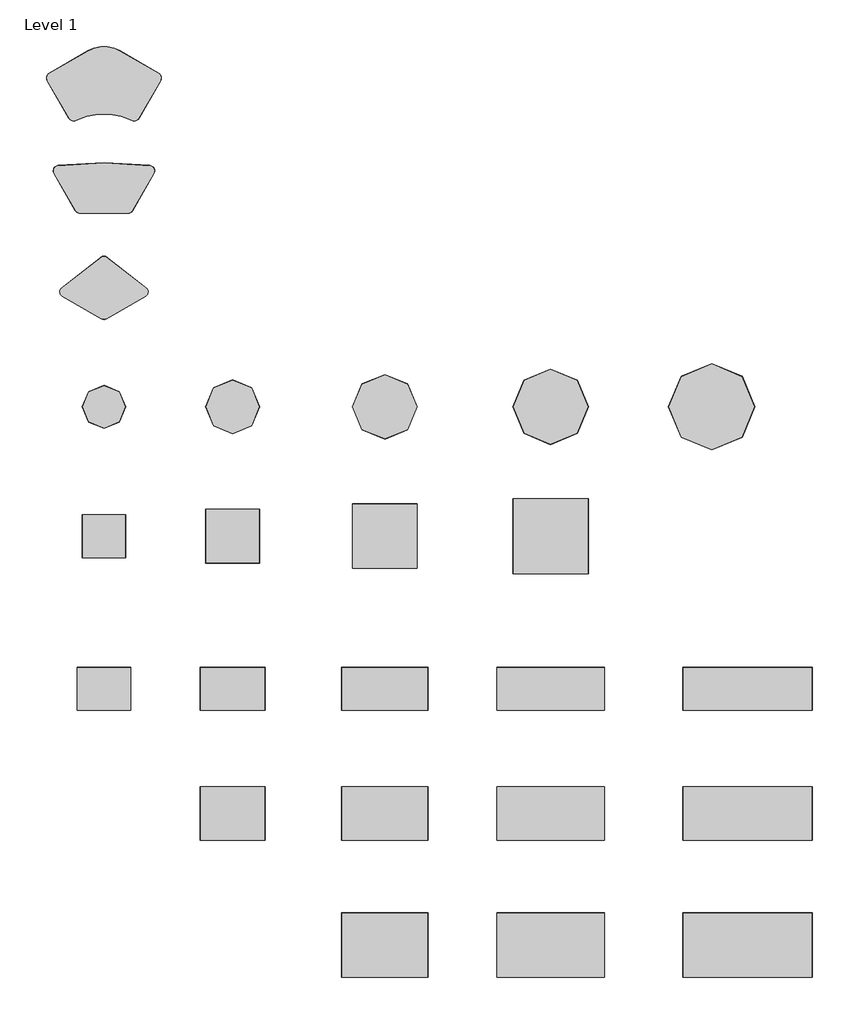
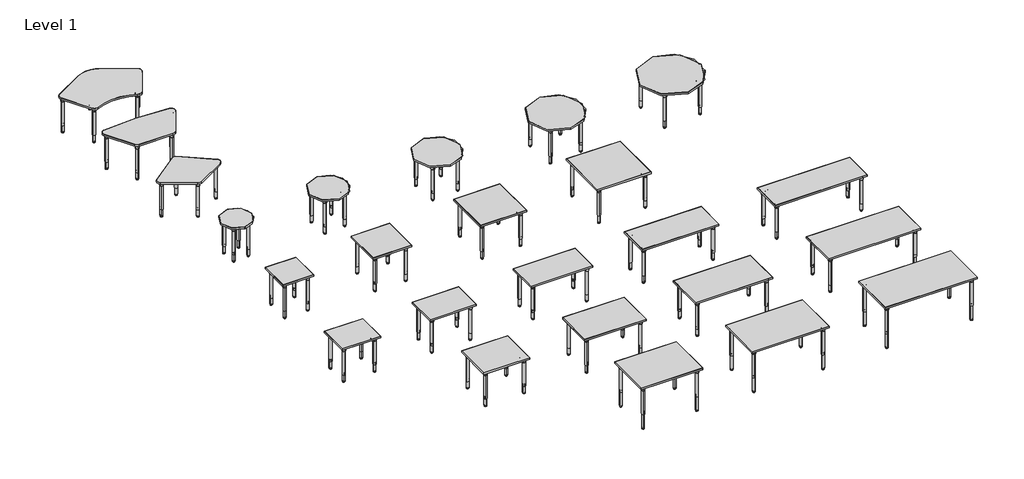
# One storey: 24 furniture elements.
"""IFC4 building model written with IfcOpenShell, lengths in millimetres."""

from ifc_helpers import new_model, si_unit, origin, place, context, project, spatial, transform, mapped, element, save
from components import furniture_91c81256, furniture_8084dfe0, furniture_8ffb9708, mgl2430_6a437351, mgl2436_2387e3a6, mgl2448_73f5a753, mgl2460_92f67adb, mgl2472_9e382c9f, mgl24d_21a6063f, mgl24s_ef257404, mgl3036_8a9be515, mgl3048_d8aeffa5, mgl3060_ef460943, mgl3072_897ac57b, mgl30d_0bfcbd0f, mgl30s_412d6b17, mgl3648_3a165951, mgl3660_9fdf70c8, mgl3672_5fbb54ad, mgl36d_3e933a5c, mgl36s_a372faff, mgl42d_aba82845, mgl42s_2c5b5d76, mgl48d_62a0719f

model = new_model("IFC4")

# Units and contexts
model_context = context("Model", 3, world=origin())
ifc_project = project(units=[si_unit("LENGTHUNIT", "METRE", prefix="MILLI")], contexts=[model_context])

# Site, building, storey
site = spatial("IfcSite", under=ifc_project)
building = spatial("IfcBuilding", under=site)
storey = spatial("IfcBuildingStorey", under=building, Name="Level 1", Elevation=0.0)

# Furniture
placement = place(None, origin())
furniture_shape = furniture_91c81256(model_context)
element("IfcFurniture", 1, ObjectType="ERG-Mingle-Table-Boomerang : MGLBMR", at=placement, inside=storey, context=model_context, shape_type="MappedRepresentation", body=[
    mapped(furniture_shape, transform((-9593.1202301, 12200.2574636, 0.0), x_axis=(1.0, 0.0, 0.0), y_axis=(0.0, 1.0, 0.0), z_axis=(0.0, 0.0, 1.0))),
])
furniture_2_shape = furniture_8084dfe0(model_context)
element("IfcFurniture", 2, ObjectType="ERG-Mingle-Table-Bowed_Trapezoid : MGLTZD", at=placement, inside=storey, context=model_context, shape_type="MappedRepresentation", body=[
    mapped(furniture_2_shape, transform((-9593.1202301, 10613.4429868, 0.0), x_axis=(1.0, 0.0, 0.0), y_axis=(0.0, 1.0, 0.0), z_axis=(0.0, 0.0, 1.0))),
])
furniture_3_shape = furniture_8ffb9708(model_context)
element("IfcFurniture", 3, ObjectType="ERG-Mingle-Table-Tear_Droop : MGLTPD", at=placement, inside=storey, context=model_context, shape_type="MappedRepresentation", body=[
    mapped(furniture_3_shape, transform((-9593.1202301, 9164.7381266, 0.0), x_axis=(1.0, 0.0, 0.0), y_axis=(0.0, 1.0, 0.0), z_axis=(0.0, 0.0, 1.0))),
])
mgl2430_shape = mgl2430_6a437351(model_context)
element("IfcFurniture", 4, ObjectType="ERG-Mingle-Table-Rectangle : MGL2430", at=placement, inside=storey, context=model_context, shape_type="MappedRepresentation", body=[
    mapped(mgl2430_shape, transform((-9593.1202301, 3542.6049394, 0.0), x_axis=(1.0, 0.0, 0.0), y_axis=(0.0, 1.0, 0.0), z_axis=(0.0, 0.0, 1.0))),
])
mgl2436_shape = mgl2436_2387e3a6(model_context)
element("IfcFurniture", 5, ObjectType="ERG-Mingle-Table-Rectangle : MGL2436", at=placement, inside=storey, context=model_context, shape_type="MappedRepresentation", body=[
    mapped(mgl2436_shape, transform((-7771.421414, 3542.6049394, 0.0), x_axis=(1.0, 0.0, 0.0), y_axis=(0.0, 1.0, 0.0), z_axis=(0.0, 0.0, 1.0))),
])
mgl2448_shape = mgl2448_73f5a753(model_context)
element("IfcFurniture", 6, ObjectType="ERG-Mingle-Table-Rectangle : MGL2448", at=placement, inside=storey, context=model_context, shape_type="MappedRepresentation", body=[
    mapped(mgl2448_shape, transform((-5615.7345697, 3542.6049394, 0.0), x_axis=(1.0, 0.0, 0.0), y_axis=(0.0, 1.0, 0.0), z_axis=(0.0, 0.0, 1.0))),
])
mgl2460_shape = mgl2460_92f67adb(model_context)
element("IfcFurniture", 7, ObjectType="ERG-Mingle-Table-Rectangle : MGL2460", at=placement, inside=storey, context=model_context, shape_type="MappedRepresentation", body=[
    mapped(mgl2460_shape, transform((-3266.9327248, 3542.6049394, 0.0), x_axis=(1.0, 0.0, 0.0), y_axis=(0.0, 1.0, 0.0), z_axis=(0.0, 0.0, 1.0))),
])
mgl2472_shape = mgl2472_9e382c9f(model_context)
element("IfcFurniture", 8, ObjectType="ERG-Mingle-Table-Rectangle : MGL2472", at=placement, inside=storey, context=model_context, shape_type="MappedRepresentation", body=[
    mapped(mgl2472_shape, transform((-479.1772159, 3542.6049394, 0.0), x_axis=(1.0, 0.0, 0.0), y_axis=(0.0, 1.0, 0.0), z_axis=(0.0, 0.0, 1.0))),
])
mgl24d_shape = mgl24d_21a6063f(model_context)
element("IfcFurniture", 9, ObjectType="ERG-Mingle-Table-Round : MGL24D", at=placement, inside=storey, context=model_context, shape_type="MappedRepresentation", body=[
    mapped(mgl24d_shape, transform((-9593.1202301, 7534.2733312, 0.0), x_axis=(1.0, 0.0, 0.0), y_axis=(0.0, 1.0, 0.0), z_axis=(0.0, 0.0, 1.0))),
])
mgl24s_shape = mgl24s_ef257404(model_context)
element("IfcFurniture", 10, ObjectType="ERG-Mingle-Table-Square : MGL24S", at=placement, inside=storey, context=model_context, shape_type="MappedRepresentation", body=[
    mapped(mgl24s_shape, transform((-9593.1202301, 5703.2243932, 0.0), x_axis=(1.0, 0.0, 0.0), y_axis=(0.0, 1.0, 0.0), z_axis=(0.0, 0.0, 1.0))),
])
mgl3036_shape = mgl3036_8a9be515(model_context)
element("IfcFurniture", 11, ObjectType="ERG-Mingle-Table-Rectangle : MGL3036", at=placement, inside=storey, context=model_context, shape_type="MappedRepresentation", body=[
    mapped(mgl3036_shape, transform((-7771.421414, 1778.4294221, 0.0), x_axis=(1.0, 0.0, 0.0), y_axis=(0.0, 1.0, 0.0), z_axis=(0.0, 0.0, 1.0))),
])
mgl3048_shape = mgl3048_d8aeffa5(model_context)
element("IfcFurniture", 12, ObjectType="ERG-Mingle-Table-Rectangle : MGL3048", at=placement, inside=storey, context=model_context, shape_type="MappedRepresentation", body=[
    mapped(mgl3048_shape, transform((-5615.7345697, 1778.4294221, 0.0), x_axis=(1.0, 0.0, 0.0), y_axis=(0.0, 1.0, 0.0), z_axis=(0.0, 0.0, 1.0))),
])
mgl3060_shape = mgl3060_ef460943(model_context)
element("IfcFurniture", 13, ObjectType="ERG-Mingle-Table-Rectangle : MGL3060", at=placement, inside=storey, context=model_context, shape_type="MappedRepresentation", body=[
    mapped(mgl3060_shape, transform((-3266.9327248, 1778.4294221, 0.0), x_axis=(1.0, 0.0, 0.0), y_axis=(0.0, 1.0, 0.0), z_axis=(0.0, 0.0, 1.0))),
])
mgl3072_shape = mgl3072_897ac57b(model_context)
element("IfcFurniture", 14, ObjectType="ERG-Mingle-Table-Rectangle : MGL3072", at=placement, inside=storey, context=model_context, shape_type="MappedRepresentation", body=[
    mapped(mgl3072_shape, transform((-479.1772159, 1778.4294221, 0.0), x_axis=(1.0, 0.0, 0.0), y_axis=(0.0, 1.0, 0.0), z_axis=(0.0, 0.0, 1.0))),
])
mgl30d_shape = mgl30d_0bfcbd0f(model_context)
element("IfcFurniture", 15, ObjectType="ERG-Mingle-Table-Round : MGL30D", at=placement, inside=storey, context=model_context, shape_type="MappedRepresentation", body=[
    mapped(mgl30d_shape, transform((-7771.421414, 7534.2733312, 0.0), x_axis=(1.0, 0.0, 0.0), y_axis=(0.0, 1.0, 0.0), z_axis=(0.0, 0.0, 1.0))),
])
mgl30s_shape = mgl30s_412d6b17(model_context)
element("IfcFurniture", 16, ObjectType="ERG-Mingle-Table-Square : MGL30S", at=placement, inside=storey, context=model_context, shape_type="MappedRepresentation", body=[
    mapped(mgl30s_shape, transform((-7771.421414, 5703.2243932, 0.0), x_axis=(1.0, 0.0, 0.0), y_axis=(0.0, 1.0, 0.0), z_axis=(0.0, 0.0, 1.0))),
])
mgl3648_shape = mgl3648_3a165951(model_context)
element("IfcFurniture", 17, ObjectType="ERG-Mingle-Table-Rectangle : MGL3648", at=placement, inside=storey, context=model_context, shape_type="MappedRepresentation", body=[
    mapped(mgl3648_shape, transform((-5615.7345697, -84.8570794, 0.0), x_axis=(1.0, 0.0, 0.0), y_axis=(0.0, 1.0, 0.0), z_axis=(0.0, 0.0, 1.0))),
])
mgl3660_shape = mgl3660_9fdf70c8(model_context)
element("IfcFurniture", 18, ObjectType="ERG-Mingle-Table-Rectangle : MGL3660", at=placement, inside=storey, context=model_context, shape_type="MappedRepresentation", body=[
    mapped(mgl3660_shape, transform((-3266.9327248, -84.8570794, 0.0), x_axis=(1.0, 0.0, 0.0), y_axis=(0.0, 1.0, 0.0), z_axis=(0.0, 0.0, 1.0))),
])
mgl3672_shape = mgl3672_5fbb54ad(model_context)
element("IfcFurniture", 19, ObjectType="ERG-Mingle-Table-Rectangle : MGL3672", at=placement, inside=storey, context=model_context, shape_type="MappedRepresentation", body=[
    mapped(mgl3672_shape, transform((-479.1772159, -84.8570794, 0.0), x_axis=(1.0, 0.0, 0.0), y_axis=(0.0, 1.0, 0.0), z_axis=(0.0, 0.0, 1.0))),
])
mgl36d_shape = mgl36d_3e933a5c(model_context)
element("IfcFurniture", 20, ObjectType="ERG-Mingle-Table-Round : MGL36D", at=placement, inside=storey, context=model_context, shape_type="MappedRepresentation", body=[
    mapped(mgl36d_shape, transform((-5615.7345697, 7534.2733312, 0.0), x_axis=(1.0, 0.0, 0.0), y_axis=(0.0, 1.0, 0.0), z_axis=(0.0, 0.0, 1.0))),
])
mgl36s_shape = mgl36s_a372faff(model_context)
element("IfcFurniture", 21, ObjectType="ERG-Mingle-Table-Square : MGL36S", at=placement, inside=storey, context=model_context, shape_type="MappedRepresentation", body=[
    mapped(mgl36s_shape, transform((-5615.7345697, 5703.2243932, 0.0), x_axis=(1.0, 0.0, 0.0), y_axis=(0.0, 1.0, 0.0), z_axis=(0.0, 0.0, 1.0))),
])
mgl42d_shape = mgl42d_aba82845(model_context)
element("IfcFurniture", 22, ObjectType="ERG-Mingle-Table-Round : MGL42D", at=placement, inside=storey, context=model_context, shape_type="MappedRepresentation", body=[
    mapped(mgl42d_shape, transform((-3266.9327248, 7534.2733312, 0.0), x_axis=(1.0, 0.0, 0.0), y_axis=(0.0, 1.0, 0.0), z_axis=(0.0, 0.0, 1.0))),
])
mgl42s_shape = mgl42s_2c5b5d76(model_context)
element("IfcFurniture", 23, ObjectType="ERG-Mingle-Table-Square : MGL42S", at=placement, inside=storey, context=model_context, shape_type="MappedRepresentation", body=[
    mapped(mgl42s_shape, transform((-3266.9327248, 5703.2243932, 0.0), x_axis=(1.0, 0.0, 0.0), y_axis=(0.0, 1.0, 0.0), z_axis=(0.0, 0.0, 1.0))),
])
mgl48d_shape = mgl48d_62a0719f(model_context)
element("IfcFurniture", 24, ObjectType="ERG-Mingle-Table-Round : MGL48D", at=placement, inside=storey, context=model_context, shape_type="MappedRepresentation", body=[
    mapped(mgl48d_shape, transform((-987.38009, 7534.2733312, 0.0), x_axis=(1.0, 0.0, 0.0), y_axis=(0.0, 1.0, 0.0), z_axis=(0.0, 0.0, 1.0))),
])

save(model, "model.ifc")
